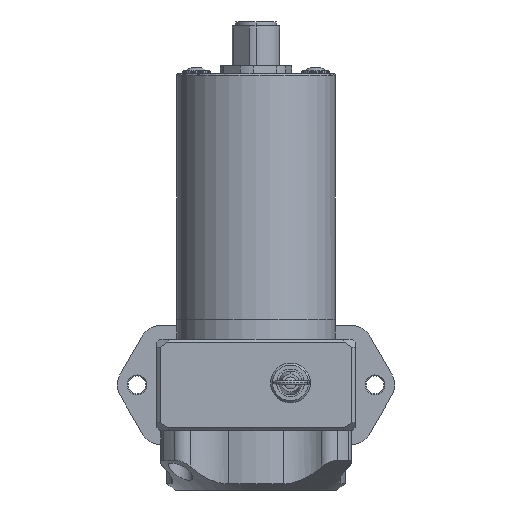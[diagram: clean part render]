
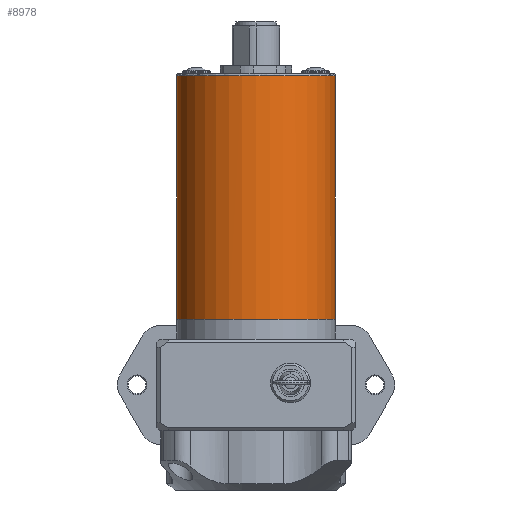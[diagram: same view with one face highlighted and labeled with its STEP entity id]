
A CAD part, front view. The second image highlights one B-rep face of the part: STEP entity #8978.
In plain terms, the highlighted cylindrical face has radius 20 mm (diameter 40 mm), a partial arc.
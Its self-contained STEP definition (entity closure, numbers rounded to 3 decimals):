
#8649 = EDGE_CURVE ( 'NONE', #8970, #8658, #9428, .T. ) ;
#8652 = EDGE_LOOP ( 'NONE', ( #8980, #8982, #8983, #8985, #8712 ) ) ;
#8657 = EDGE_CURVE ( 'NONE', #8676, #8972, #9544, .T. ) ;
#8658 = VERTEX_POINT ( 'NONE', #9536 ) ;
#8675 = EDGE_CURVE ( 'NONE', #8676, #8874, #9886, .T. ) ;
#8676 = VERTEX_POINT ( 'NONE', #9808 ) ;
#8712 = ORIENTED_EDGE ( 'NONE', *, *, #8858, .T. ) ;
#8858 = EDGE_CURVE ( 'NONE', #8658, #8972, #11222, .T. ) ;
#8874 = VERTEX_POINT ( 'NONE', #11188 ) ;
#8970 = VERTEX_POINT ( 'NONE', #11248 ) ;
#8972 = VERTEX_POINT ( 'NONE', #11247 ) ;
#8978 = ADVANCED_FACE ( 'NONE', ( #11275 ), #11124, .T. ) ;
#8980 = ORIENTED_EDGE ( 'NONE', *, *, #8657, .F. ) ;
#8982 = ORIENTED_EDGE ( 'NONE', *, *, #8675, .T. ) ;
#8983 = ORIENTED_EDGE ( 'NONE', *, *, #8984, .T. ) ;
#8984 = EDGE_CURVE ( 'NONE', #8874, #8970, #11123, .T. ) ;
#8985 = ORIENTED_EDGE ( 'NONE', *, *, #8649, .T. ) ;
#9420 = DIRECTION ( 'NONE',  ( 0., 0., -1. ) ) ;
#9422 = VECTOR ( 'NONE', #9420, 1000. ) ;
#9425 = CARTESIAN_POINT ( 'NONE',  ( -20., 0., 28. ) ) ;
#9428 = LINE ( 'NONE', #9425, #9422 ) ;
#9536 = CARTESIAN_POINT ( 'NONE',  ( -20., 0., 28. ) ) ;
#9539 = DIRECTION ( 'NONE',  ( 0., 0., -1. ) ) ;
#9540 = VECTOR ( 'NONE', #9539, 1000. ) ;
#9541 = CARTESIAN_POINT ( 'NONE',  ( 20., 0., 28. ) ) ;
#9544 = LINE ( 'NONE', #9541, #9540 ) ;
#9808 = CARTESIAN_POINT ( 'NONE',  ( 20., 0., 89.5 ) ) ;
#9809 = DIRECTION ( 'NONE',  ( -1., 0., 0. ) ) ;
#9810 = DIRECTION ( 'NONE',  ( 0., 0., -1. ) ) ;
#9811 = CARTESIAN_POINT ( 'NONE',  ( 0., 0., 89.5 ) ) ;
#9825 = AXIS2_PLACEMENT_3D ( 'NONE', #9811, #9810, #9809 ) ;
#9886 = CIRCLE ( 'NONE', #9825, 20. ) ;
#11115 = DIRECTION ( 'NONE',  ( -1., 0., 0. ) ) ;
#11116 = DIRECTION ( 'NONE',  ( 0., 0., -1. ) ) ;
#11117 = CARTESIAN_POINT ( 'NONE',  ( 0., 0., 89.5 ) ) ;
#11118 = AXIS2_PLACEMENT_3D ( 'NONE', #11117, #11116, #11115 ) ;
#11119 = DIRECTION ( 'NONE',  ( -1., 0., 0. ) ) ;
#11120 = DIRECTION ( 'NONE',  ( 0., 0., -1. ) ) ;
#11121 = CARTESIAN_POINT ( 'NONE',  ( 0., 0., 28. ) ) ;
#11122 = AXIS2_PLACEMENT_3D ( 'NONE', #11121, #11120, #11119 ) ;
#11123 = CIRCLE ( 'NONE', #11118, 20. ) ;
#11124 = CYLINDRICAL_SURFACE ( 'NONE', #11122, 20. ) ;
#11188 = CARTESIAN_POINT ( 'NONE',  ( 20., -0.092, 89.5 ) ) ;
#11222 = CIRCLE ( 'NONE', #11256, 20. ) ;
#11247 = CARTESIAN_POINT ( 'NONE',  ( 20., 0., 28. ) ) ;
#11248 = CARTESIAN_POINT ( 'NONE',  ( -20., 0., 89.5 ) ) ;
#11254 = DIRECTION ( 'NONE',  ( 0., 0., 1. ) ) ;
#11255 = CARTESIAN_POINT ( 'NONE',  ( 0., 0., 28. ) ) ;
#11256 = AXIS2_PLACEMENT_3D ( 'NONE', #11255, #11254, #11265 ) ;
#11265 = DIRECTION ( 'NONE',  ( -1., 0., 0. ) ) ;
#11275 = FACE_OUTER_BOUND ( 'NONE', #8652, .T. ) ;
